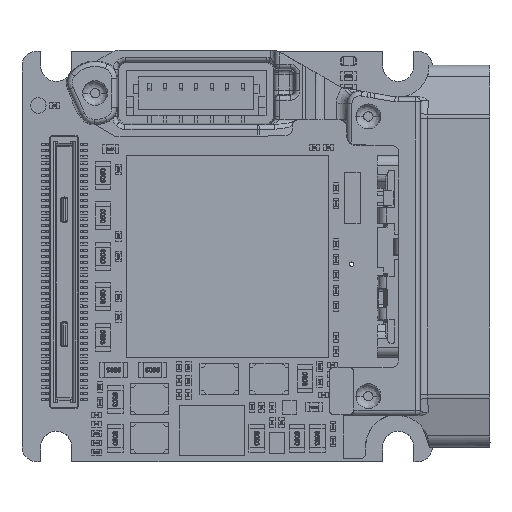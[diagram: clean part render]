
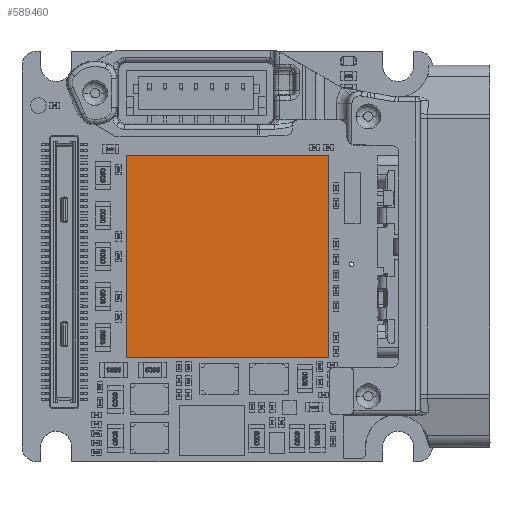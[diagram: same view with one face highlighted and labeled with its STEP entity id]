
A CAD part, top view. The second image highlights one B-rep face of the part: STEP entity #589460.
In plain terms, the highlighted planar face has unit normal (0, 0, 1).
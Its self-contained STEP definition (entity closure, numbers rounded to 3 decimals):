
#5485 = VERTEX_POINT ( 'NONE', #251470 ) ;
#20524 = CARTESIAN_POINT ( 'NONE',  ( -6.5, -6.5, 6.167 ) ) ;
#22733 = CARTESIAN_POINT ( 'NONE',  ( -6.5, 6.5, 6.167 ) ) ;
#49284 = EDGE_CURVE ( 'NONE', #266100, #289113, #558897, .T. ) ;
#61774 = DIRECTION ( 'NONE',  ( 1., 0., 0. ) ) ;
#93248 = ORIENTED_EDGE ( 'NONE', *, *, #507339, .F. ) ;
#99223 = LINE ( 'NONE', #277249, #391422 ) ;
#102421 = VECTOR ( 'NONE', #474395, 1000. ) ;
#107007 = LINE ( 'NONE', #22733, #171155 ) ;
#137510 = CARTESIAN_POINT ( 'NONE',  ( 6.5, 6.5, 6.167 ) ) ;
#153600 = VERTEX_POINT ( 'NONE', #20524 ) ;
#171155 = VECTOR ( 'NONE', #397090, 1000. ) ;
#188417 = DIRECTION ( 'NONE',  ( -1., 0., 0. ) ) ;
#189915 = FACE_OUTER_BOUND ( 'NONE', #307935, .T. ) ;
#203575 = ORIENTED_EDGE ( 'NONE', *, *, #480626, .F. ) ;
#251260 = VECTOR ( 'NONE', #188417, 1000. ) ;
#251470 = CARTESIAN_POINT ( 'NONE',  ( -6.5, 6.5, 6.167 ) ) ;
#266100 = VERTEX_POINT ( 'NONE', #507374 ) ;
#277249 = CARTESIAN_POINT ( 'NONE',  ( -6.5, -6.5, 6.167 ) ) ;
#288138 = CARTESIAN_POINT ( 'NONE',  ( 6.5, -6.5, 6.167 ) ) ;
#289113 = VERTEX_POINT ( 'NONE', #469626 ) ;
#307935 = EDGE_LOOP ( 'NONE', ( #560790, #519149, #203575, #93248 ) ) ;
#313403 = EDGE_CURVE ( 'NONE', #289113, #153600, #615805, .T. ) ;
#327085 = DIRECTION ( 'NONE',  ( 0., 1., 0. ) ) ;
#339515 = PLANE ( 'NONE',  #374818 ) ;
#354878 = CARTESIAN_POINT ( 'NONE',  ( -6.5, -6.5, 6.167 ) ) ;
#374818 = AXIS2_PLACEMENT_3D ( 'NONE', #354878, #588865, #61774 ) ;
#391422 = VECTOR ( 'NONE', #327085, 1000. ) ;
#397090 = DIRECTION ( 'NONE',  ( 1., 0., 0. ) ) ;
#469626 = CARTESIAN_POINT ( 'NONE',  ( 6.5, -6.5, 6.167 ) ) ;
#474395 = DIRECTION ( 'NONE',  ( 0., -1., 0. ) ) ;
#480626 = EDGE_CURVE ( 'NONE', #5485, #266100, #107007, .T. ) ;
#507339 = EDGE_CURVE ( 'NONE', #153600, #5485, #99223, .T. ) ;
#507374 = CARTESIAN_POINT ( 'NONE',  ( 6.5, 6.5, 6.167 ) ) ;
#519149 = ORIENTED_EDGE ( 'NONE', *, *, #49284, .F. ) ;
#558897 = LINE ( 'NONE', #137510, #102421 ) ;
#560790 = ORIENTED_EDGE ( 'NONE', *, *, #313403, .F. ) ;
#588865 = DIRECTION ( 'NONE',  ( 0., 0., 1. ) ) ;
#589460 = ADVANCED_FACE ( 'NONE', ( #189915 ), #339515, .T. ) ;
#615805 = LINE ( 'NONE', #288138, #251260 ) ;
